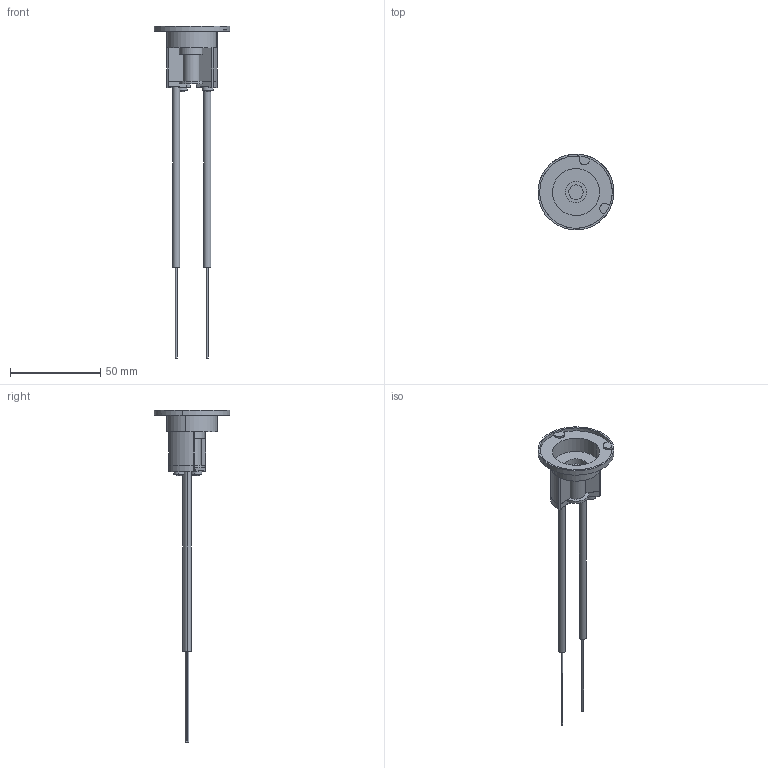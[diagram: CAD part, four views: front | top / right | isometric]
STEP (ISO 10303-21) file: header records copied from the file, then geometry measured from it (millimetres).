
FILE_DESCRIPTION (( 'STEP AP203' ), '1' );
FILE_NAME ('FR-20PRN.STEP', '2016-06-21T01:41:15', ( '' ), ( '' ), 'SwSTEP 2.0', 'SolidWorks 2014', '' );
FILE_SCHEMA (( 'CONFIG_CONTROL_DESIGN' ));
Length unit declared in the file: metre
Products named in the file (8): PRNA10S-#-#-#-FR (6)_2; PRNA10S-#-#-#-FR (2)_1; PRNA10S-#-#-#-FR (4)_2; PRNA10S-#-#-#-FR (1)_2; PRNA10S-#-#-#-FR (5)_2; FR-20PRN; PRNA10S-#-#-#-FR (7)_2; PRNA10S-#-#-#-FR (3)_1
Assembly tree (9 placements, depth 2):
  FR-20PRN
    PRNA10S-#-#-#-FR (1)_2
    PRNA10S-#-#-#-FR (2)_1
    PRNA10S-#-#-#-FR (3)_1
    PRNA10S-#-#-#-FR (4)_2
    PRNA10S-#-#-#-FR (5)_2
    PRNA10S-#-#-#-FR (6)_2  x2
    PRNA10S-#-#-#-FR (7)_2  x2
Bounding box: 41.87 x 41.93 x 183.5 mm (x, y, z)
Volume: 10632.7 mm3; surface area: 12364.2 mm2
Topology: 9 solids, 9 shells, 170 faces, 420 edges, 280 vertices
Faces by surface type: plane 84, cylinder 82, bspline 4
Entity records: 5388 total; most frequent: CARTESIAN_POINT 862, DIRECTION 820, ORIENTED_EDGE 732, EDGE_CURVE 366, AXIS2_PLACEMENT_3D 314, VERTEX_POINT 244, VECTOR 192, LINE 192
